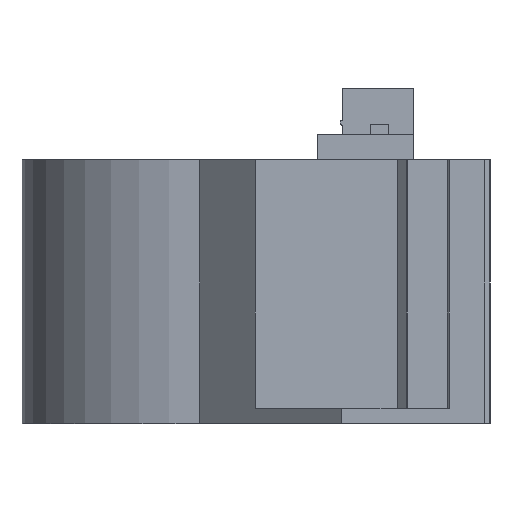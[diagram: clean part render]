
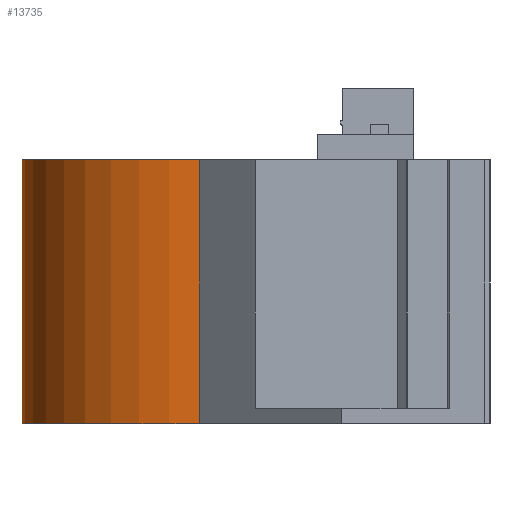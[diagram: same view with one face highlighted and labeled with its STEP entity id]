
A CAD part, left-side view. The second image highlights one B-rep face of the part: STEP entity #13735.
In plain terms, the highlighted cylindrical face has radius 17.5 mm (diameter 35 mm), a partial arc.
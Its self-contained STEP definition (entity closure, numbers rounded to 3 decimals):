
#1715=LINE('',#25633,#3263);
#1716=LINE('',#25634,#3264);
#3263=VECTOR('',#17637,26.);
#3264=VECTOR('',#17638,26.);
#4680=FACE_OUTER_BOUND('',#5509,.T.);
#5509=EDGE_LOOP('',(#12360,#12361,#12362,#12363));
#5749=CIRCLE('',#14518,17.5);
#5751=CIRCLE('',#14523,17.5);
#6866=VERTEX_POINT('',#25307);
#6867=VERTEX_POINT('',#25309);
#6912=VERTEX_POINT('',#25415);
#6913=VERTEX_POINT('',#25417);
#8630=EDGE_CURVE('',#6866,#6867,#5749,.T.);
#8689=EDGE_CURVE('',#6913,#6912,#5751,.T.);
#8799=EDGE_CURVE('',#6867,#6912,#1715,.T.);
#8800=EDGE_CURVE('',#6866,#6913,#1716,.T.);
#12360=ORIENTED_EDGE('',*,*,#8689,.T.);
#12361=ORIENTED_EDGE('',*,*,#8799,.F.);
#12362=ORIENTED_EDGE('',*,*,#8630,.F.);
#12363=ORIENTED_EDGE('',*,*,#8800,.T.);
#12730=CYLINDRICAL_SURFACE('',#14570,17.5);
#13735=ADVANCED_FACE('',(#4680),#12730,.T.);
#14518=AXIS2_PLACEMENT_3D('',#25310,#17367,#17368);
#14523=AXIS2_PLACEMENT_3D('',#25418,#17434,#17435);
#14570=AXIS2_PLACEMENT_3D('',#25632,#17635,#17636);
#17367=DIRECTION('center_axis',(0.,0.,1.));
#17368=DIRECTION('ref_axis',(1.,0.,0.));
#17434=DIRECTION('center_axis',(0.,0.,1.));
#17435=DIRECTION('ref_axis',(1.,0.,0.));
#17635=DIRECTION('center_axis',(0.,0.,-1.));
#17636=DIRECTION('ref_axis',(-1.,0.,0.));
#17637=DIRECTION('',(0.,0.,-1.));
#17638=DIRECTION('',(0.,0.,-1.));
#25307=CARTESIAN_POINT('',(12.667,4.574,13.));
#25309=CARTESIAN_POINT('',(-22.333,4.574,13.));
#25310=CARTESIAN_POINT('Origin',(-4.833,4.574,13.));
#25415=CARTESIAN_POINT('',(-22.333,4.574,-13.));
#25417=CARTESIAN_POINT('',(12.667,4.574,-13.));
#25418=CARTESIAN_POINT('Origin',(-4.833,4.574,-13.));
#25632=CARTESIAN_POINT('Origin',(-4.833,4.574,13.));
#25633=CARTESIAN_POINT('',(-22.333,4.574,13.));
#25634=CARTESIAN_POINT('',(12.667,4.574,13.));
